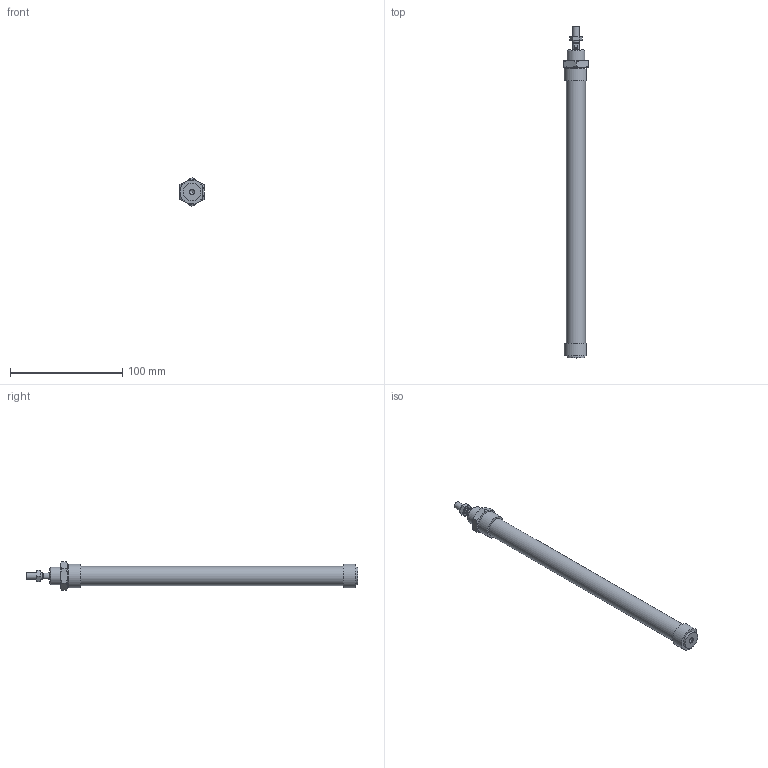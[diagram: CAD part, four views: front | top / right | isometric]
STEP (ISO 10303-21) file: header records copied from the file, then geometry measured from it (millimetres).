
FILE_DESCRIPTION((''),'2;1');
FILE_NAME('I:\Area Tecnica\Disegni\VARIE-3D\Componenti\1280\1281_##_####_#\1281_16_0200.iam.stp','2009-06-04T09:38:46',(''),(''),'Autodesk Inventor 2010','Autodesk Inventor 2010','');
FILE_SCHEMA(('AUTOMOTIVE_DESIGN { 1 0 10303 214 1 1 1 1 }'));
Length unit declared in the file: millimetre
Products named in the file (5): 1281_16_0200; C1281_16_200; S1280_16_200; 1200_16_05; 1200_16_06
Assembly tree (4 placements, depth 2):
  1281_16_0200
    C1281_16_200
    S1280_16_200
    1200_16_05
    1200_16_06
Bounding box: 22 x 296 x 25.4 mm (x, y, z)
Volume: 67623.8 mm3; surface area: 26616.8 mm2
Topology: 4 solids, 4 shells, 83 faces, 169 edges, 102 vertices
Faces by surface type: plane 34, cone 26, bspline 14, cylinder 9
Full cylindrical faces by diameter (mm): 5 x1, 6 x3, 16 x2, 17.2 x1
Entity records: 2370 total; most frequent: CARTESIAN_POINT 636, DIRECTION 314, ORIENTED_EDGE 284, AXIS2_PLACEMENT_3D 142, EDGE_CURVE 142, EDGE_LOOP 116, VERTEX_POINT 96, STYLED_ITEM 87
